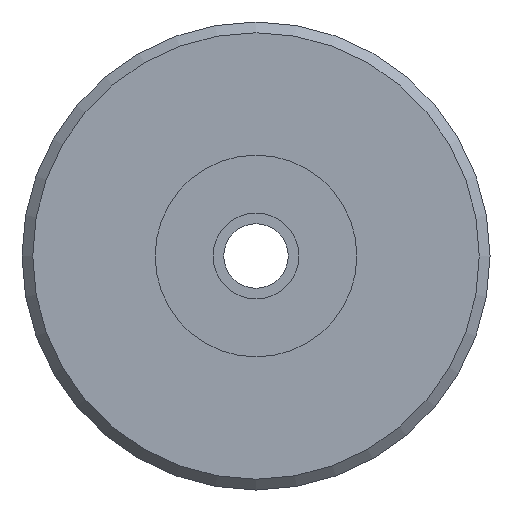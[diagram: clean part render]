
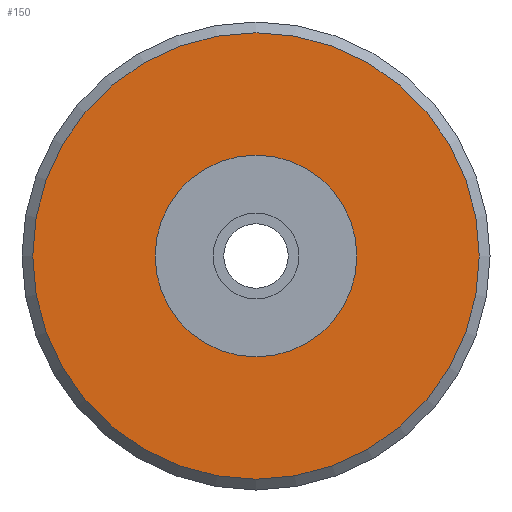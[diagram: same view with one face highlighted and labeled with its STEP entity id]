
A CAD part, left-side view. The second image highlights one B-rep face of the part: STEP entity #150.
In plain terms, the highlighted planar face has unit normal (-1, 0, 0).
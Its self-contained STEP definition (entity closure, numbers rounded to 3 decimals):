
#17=PLANE($,#172);
#40=FACE_BOUND($,#67,.T.);
#41=FACE_BOUND($,#68,.T.);
#67=EDGE_LOOP($,(#127));
#68=EDGE_LOOP($,(#128));
#83=CIRCLE($,#166,1.194);
#86=CIRCLE($,#173,2.642);
#95=VERTEX_POINT($,#245);
#98=VERTEX_POINT($,#255);
#107=EDGE_CURVE($,#95,#95,#83,.T.);
#110=EDGE_CURVE($,#98,#98,#86,.T.);
#127=ORIENTED_EDGE($,*,*,#107,.T.);
#128=ORIENTED_EDGE($,*,*,#110,.F.);
#150=ADVANCED_FACE($,(#40,#41),#17,.T.);
#166=AXIS2_PLACEMENT_3D($,#246,#199,#200);
#172=AXIS2_PLACEMENT_3D($,#254,#211,#212);
#173=AXIS2_PLACEMENT_3D($,#256,#213,#214);
#199=DIRECTION('center_axis',(1.,0.,0.));
#200=DIRECTION('ref_axis',(0.,1.,0.));
#211=DIRECTION('center_axis',(-1.,0.,0.));
#212=DIRECTION('ref_axis',(0.,0.,1.));
#213=DIRECTION('center_axis',(1.,0.,0.));
#214=DIRECTION('ref_axis',(0.,-1.,0.));
#245=CARTESIAN_POINT('',(-14.204,5.19,0.));
#246=CARTESIAN_POINT('Origin',(-14.204,3.996,0.));
#254=CARTESIAN_POINT('Origin',(-14.204,5.381,0.));
#255=CARTESIAN_POINT('',(-14.204,6.638,0.));
#256=CARTESIAN_POINT('Origin',(-14.204,3.996,0.));
